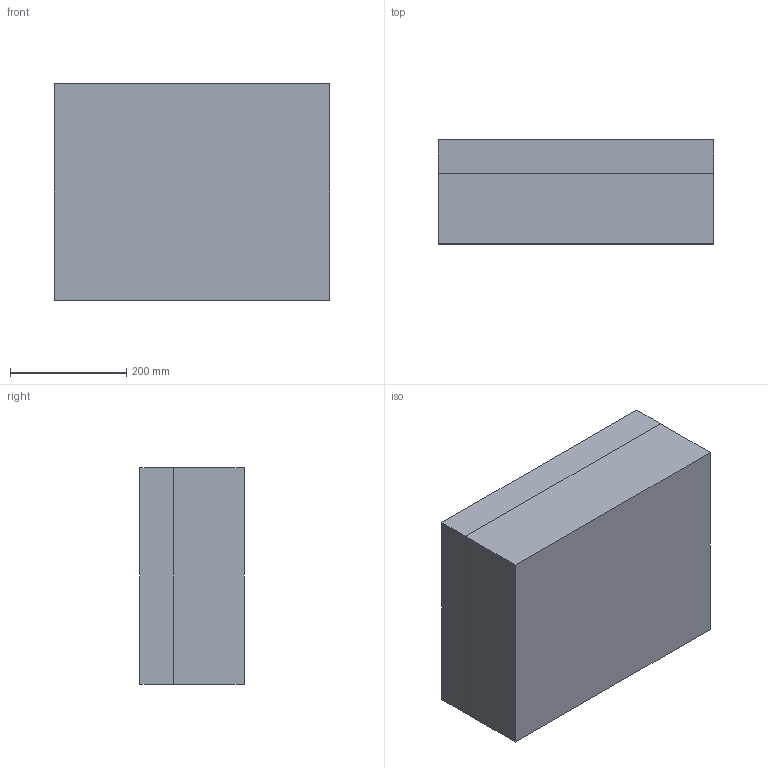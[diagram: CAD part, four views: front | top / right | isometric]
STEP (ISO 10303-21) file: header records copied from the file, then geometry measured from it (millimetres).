
FILE_DESCRIPTION (( 'STEP AP203' ), '1' );
FILE_NAME ('925.STEP', '2014-10-07T14:12:36', ( 'Ben laptop' ), ( 'Microsoft' ), 'SwSTEP 2.0', 'SolidWorks 2014', '' );
FILE_SCHEMA (( 'CONFIG_CONTROL_DESIGN' ));
Products named in the file (1): 925
Bounding box: 474.22 x 179.11 x 372.78 mm (x, y, z)
Volume: 10796335.9 mm3; surface area: 1212401.4 mm2
Topology: 2 solids, 2 shells, 731 faces, 1747 edges, 1020 vertices
Faces by surface type: bspline 386, cylinder 210, plane 95, torus 20, sphere 12, cone 8
Entity records: 54858 total; most frequent: CARTESIAN_POINT 40849, ORIENTED_EDGE 3438, DIRECTION 2234, EDGE_CURVE 1719, VERTEX_POINT 1016, AXIS2_PLACEMENT_3D 943, EDGE_LOOP 755, ADVANCED_FACE 731
